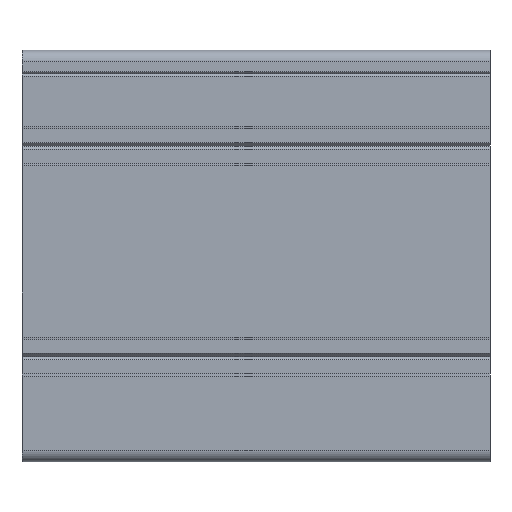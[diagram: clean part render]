
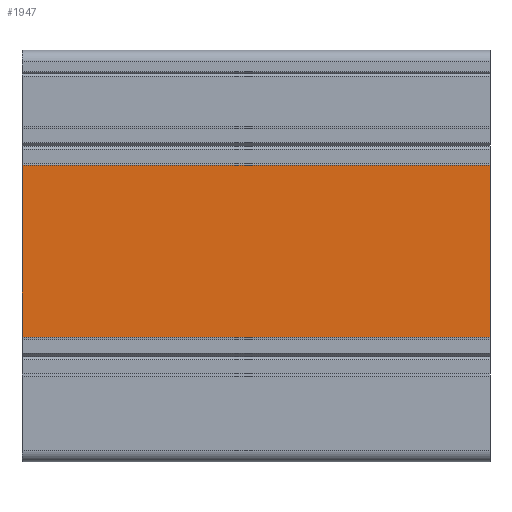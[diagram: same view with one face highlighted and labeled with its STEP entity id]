
A CAD part, front view. The second image highlights one B-rep face of the part: STEP entity #1947.
In plain terms, the highlighted planar face has unit normal (0, -1, 0).
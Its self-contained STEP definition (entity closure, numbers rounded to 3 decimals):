
#120 = DIRECTION ( 'NONE',  ( -1., 0., 0. ) ) ;
#175 = VERTEX_POINT ( 'NONE', #3128 ) ;
#306 = VERTEX_POINT ( 'NONE', #4763 ) ;
#541 = EDGE_CURVE ( 'NONE', #901, #306, #2434, .T. ) ;
#736 = CARTESIAN_POINT ( 'NONE',  ( 59.184, 32.398, 18.35 ) ) ;
#901 = VERTEX_POINT ( 'NONE', #3875 ) ;
#966 = CARTESIAN_POINT ( 'NONE',  ( 59.184, 32.398, -18.35 ) ) ;
#1212 = VECTOR ( 'NONE', #3943, 1000. ) ;
#1381 = FACE_OUTER_BOUND ( 'NONE', #1812, .T. ) ;
#1549 = ORIENTED_EDGE ( 'NONE', *, *, #541, .T. ) ;
#1665 = CARTESIAN_POINT ( 'NONE',  ( 59.184, 32.398, 18.35 ) ) ;
#1812 = EDGE_LOOP ( 'NONE', ( #3780, #4725, #3637, #1549 ) ) ;
#1847 = DIRECTION ( 'NONE',  ( 0., 0., -1. ) ) ;
#1947 = ADVANCED_FACE ( 'NONE', ( #1381 ), #2962, .F. ) ;
#2081 = CARTESIAN_POINT ( 'NONE',  ( -40.816, 32.398, -18.35 ) ) ;
#2187 = EDGE_CURVE ( 'NONE', #175, #4996, #5157, .T. ) ;
#2257 = CARTESIAN_POINT ( 'NONE',  ( -40.816, 32.398, 18.35 ) ) ;
#2434 = LINE ( 'NONE', #736, #4925 ) ;
#2962 = PLANE ( 'NONE',  #4626 ) ;
#3128 = CARTESIAN_POINT ( 'NONE',  ( 59.184, 32.398, -18.35 ) ) ;
#3136 = VECTOR ( 'NONE', #120, 1000. ) ;
#3637 = ORIENTED_EDGE ( 'NONE', *, *, #3791, .F. ) ;
#3724 = DIRECTION ( 'NONE',  ( 0., 1., 0. ) ) ;
#3780 = ORIENTED_EDGE ( 'NONE', *, *, #4601, .T. ) ;
#3791 = EDGE_CURVE ( 'NONE', #901, #175, #4062, .T. ) ;
#3875 = CARTESIAN_POINT ( 'NONE',  ( 59.184, 32.398, 18.35 ) ) ;
#3943 = DIRECTION ( 'NONE',  ( 0., 0., -1. ) ) ;
#4062 = LINE ( 'NONE', #4364, #1212 ) ;
#4128 = VECTOR ( 'NONE', #1847, 1000. ) ;
#4143 = DIRECTION ( 'NONE',  ( 0., 0., 1. ) ) ;
#4364 = CARTESIAN_POINT ( 'NONE',  ( 59.184, 32.398, 18.35 ) ) ;
#4601 = EDGE_CURVE ( 'NONE', #306, #4996, #5234, .T. ) ;
#4626 = AXIS2_PLACEMENT_3D ( 'NONE', #1665, #3724, #4143 ) ;
#4725 = ORIENTED_EDGE ( 'NONE', *, *, #2187, .F. ) ;
#4763 = CARTESIAN_POINT ( 'NONE',  ( -40.816, 32.398, 18.35 ) ) ;
#4925 = VECTOR ( 'NONE', #5366, 1000. ) ;
#4996 = VERTEX_POINT ( 'NONE', #2081 ) ;
#5157 = LINE ( 'NONE', #966, #3136 ) ;
#5234 = LINE ( 'NONE', #2257, #4128 ) ;
#5366 = DIRECTION ( 'NONE',  ( -1., 0., 0. ) ) ;
